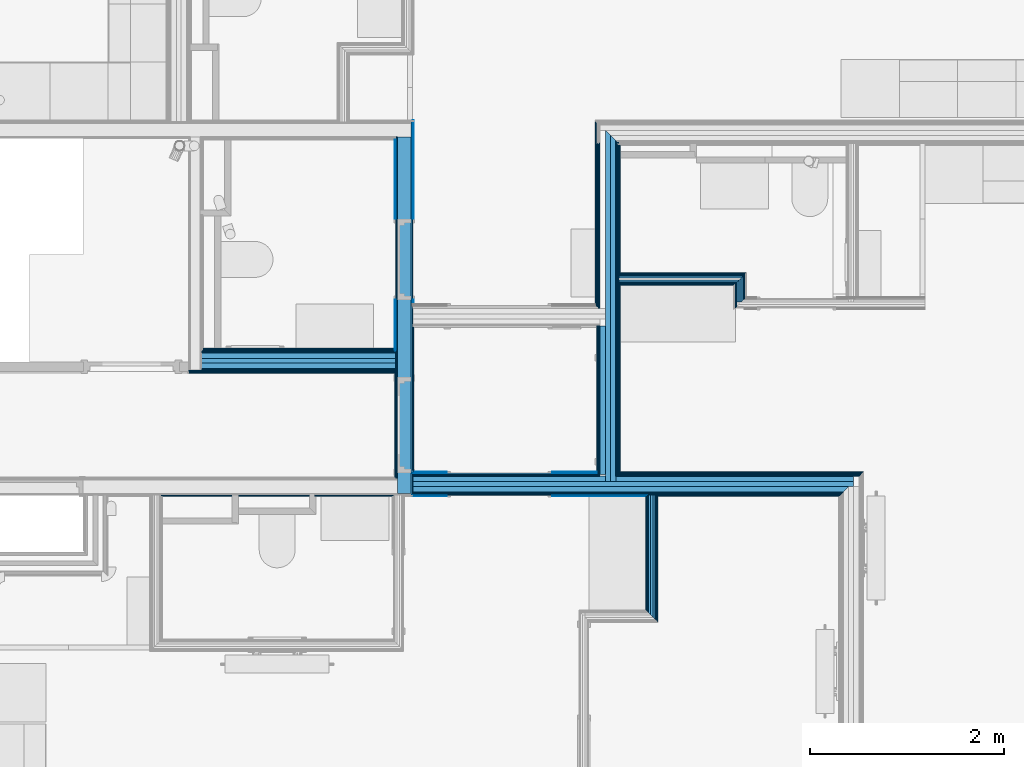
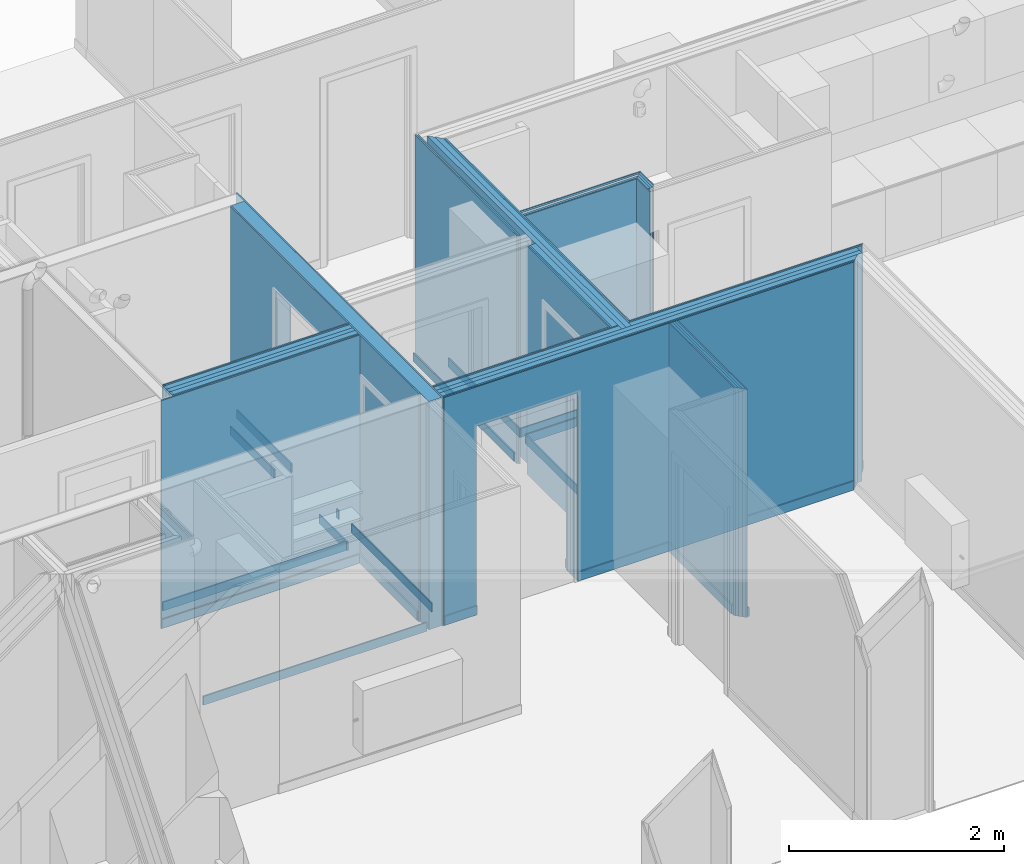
# One storey, part 20 of 85: 65 building element parts, 3 openings, 8 elements without a shape of their own.
"""IFC2X3 building model written with IfcOpenShell, lengths in metres."""

from ifc_helpers import new_model, entity, si_unit, converted_unit, derived_unit, money_unit, direction, frame, frame_2d, origin_with_axes, place, context, subcontext, project, spatial, polyline, rectangle, outline, extrude, material, type_object, element, aggregate, save


model = new_model("IFC2X3")

# Units and contexts
model_context = context("Model", 3, precision=1e-05, world=origin_with_axes(), true_north=direction((0.0, 1.0)))
body_context = subcontext(model_context, "Body", "Model", "MODEL_VIEW", scale=1.0)
ifc_project = project(units=[si_unit("LENGTHUNIT", "METRE"), si_unit("AREAUNIT", "SQUARE_METRE"), si_unit("VOLUMEUNIT", "CUBIC_METRE"), si_unit("ABSORBEDDOSEUNIT", "GRAY"), si_unit("AMOUNTOFSUBSTANCEUNIT", "MOLE"), si_unit("DOSEEQUIVALENTUNIT", "SIEVERT"), si_unit("ELECTRICCAPACITANCEUNIT", "FARAD"), si_unit("ELECTRICCHARGEUNIT", "COULOMB"), si_unit("ELECTRICCONDUCTANCEUNIT", "SIEMENS"), si_unit("ELECTRICCURRENTUNIT", "AMPERE"), si_unit("ELECTRICRESISTANCEUNIT", "OHM"), si_unit("ELECTRICVOLTAGEUNIT", "VOLT"), si_unit("ENERGYUNIT", "JOULE"), si_unit("FORCEUNIT", "NEWTON"), si_unit("FREQUENCYUNIT", "HERTZ"), si_unit("ILLUMINANCEUNIT", "LUX"), si_unit("INDUCTANCEUNIT", "HENRY"), si_unit("LUMINOUSFLUXUNIT", "LUMEN"), si_unit("LUMINOUSINTENSITYUNIT", "CANDELA"), si_unit("MAGNETICFLUXDENSITYUNIT", "TESLA"), si_unit("MAGNETICFLUXUNIT", "WEBER"), si_unit("MASSUNIT", "GRAM"), converted_unit("PLANEANGLEUNIT", "degree", entity("IfcReal", 0.0174532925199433), si_unit("PLANEANGLEUNIT", "RADIAN"), dimensions=[0, 0, 0, 0, 0, 0, 0]), si_unit("POWERUNIT", "WATT"), si_unit("PRESSUREUNIT", "PASCAL"), si_unit("RADIOACTIVITYUNIT", "BECQUEREL"), si_unit("SOLIDANGLEUNIT", "STERADIAN"), si_unit("THERMODYNAMICTEMPERATUREUNIT", "KELVIN"), si_unit("TIMEUNIT", "SECOND"), derived_unit("ACCELERATIONUNIT", [(si_unit("LENGTHUNIT", "METRE"), 1), (si_unit("TIMEUNIT", "SECOND"), -2)]), derived_unit("ANGULARVELOCITYUNIT", [(converted_unit("PLANEANGLEUNIT", "degree", entity("IfcReal", 0.0174532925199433), si_unit("PLANEANGLEUNIT", "RADIAN"), dimensions=[0, 0, 0, 0, 0, 0, 0]), 1), (si_unit("TIMEUNIT", "SECOND"), -1)]), derived_unit("CURVATUREUNIT", [(converted_unit("PLANEANGLEUNIT", "degree", entity("IfcReal", 0.0174532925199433), si_unit("PLANEANGLEUNIT", "RADIAN"), dimensions=[0, 0, 0, 0, 0, 0, 0]), 1), (si_unit("LENGTHUNIT", "METRE"), -1)]), derived_unit("DYNAMICVISCOSITYUNIT", [(si_unit("PRESSUREUNIT", "PASCAL"), 1), (si_unit("TIMEUNIT", "SECOND"), 1)]), derived_unit("HEATFLUXDENSITYUNIT", [(si_unit("POWERUNIT", "WATT"), 1), (si_unit("LENGTHUNIT", "METRE"), -2)]), derived_unit("HEATINGVALUEUNIT", [(si_unit("ENERGYUNIT", "JOULE"), 1), (si_unit("MASSUNIT", "GRAM"), -1)]), derived_unit("INTEGERCOUNTRATEUNIT", [(si_unit("TIMEUNIT", "SECOND"), -1)]), derived_unit("IONCONCENTRATIONUNIT", [(si_unit("MASSUNIT", "GRAM"), 1), (si_unit("VOLUMEUNIT", "CUBIC_METRE"), -1)]), derived_unit("ISOTHERMALMOISTURECAPACITYUNIT", [(si_unit("VOLUMEUNIT", "CUBIC_METRE"), 1), (si_unit("MASSUNIT", "GRAM"), -1)]), derived_unit("KINEMATICVISCOSITYUNIT", [(si_unit("AREAUNIT", "SQUARE_METRE"), 1), (si_unit("TIMEUNIT", "SECOND"), -1)]), derived_unit("LINEARFORCEUNIT", [(si_unit("FORCEUNIT", "NEWTON"), 1), (si_unit("LENGTHUNIT", "METRE"), -1)]), derived_unit("LINEARMOMENTUNIT", [(si_unit("FORCEUNIT", "NEWTON"), 1), (si_unit("LENGTHUNIT", "METRE"), -1)]), derived_unit("LINEARSTIFFNESSUNIT", [(si_unit("FORCEUNIT", "NEWTON"), 1), (si_unit("LENGTHUNIT", "METRE"), -1)]), derived_unit("LINEARVELOCITYUNIT", [(si_unit("LENGTHUNIT", "METRE"), 1), (si_unit("TIMEUNIT", "SECOND"), -1)]), derived_unit("LUMINOUSINTENSITYDISTRIBUTIONUNIT", [(si_unit("LUMINOUSINTENSITYUNIT", "CANDELA"), 1), (si_unit("LUMINOUSFLUXUNIT", "LUMEN"), -1)]), derived_unit("MASSDENSITYUNIT", [(si_unit("MASSUNIT", "GRAM"), 1), (si_unit("VOLUMEUNIT", "CUBIC_METRE"), -1)]), derived_unit("MASSFLOWRATEUNIT", [(si_unit("MASSUNIT", "GRAM"), 1), (si_unit("TIMEUNIT", "SECOND"), -1)]), derived_unit("MASSPERLENGTHUNIT", [(si_unit("MASSUNIT", "GRAM"), 1), (si_unit("LENGTHUNIT", "METRE"), -1)]), derived_unit("MODULUSOFELASTICITYUNIT", [(si_unit("FORCEUNIT", "NEWTON"), 1), (si_unit("AREAUNIT", "SQUARE_METRE"), -1)]), derived_unit("MODULUSOFLINEARSUBGRADEREACTIONUNIT", [(si_unit("FORCEUNIT", "NEWTON"), 1), (si_unit("LENGTHUNIT", "METRE"), -2)]), derived_unit("MODULUSOFROTATIONALSUBGRADEREACTIONUNIT", [(si_unit("FORCEUNIT", "NEWTON"), 1), (si_unit("LENGTHUNIT", "METRE"), 1)]), derived_unit("MODULUSOFSUBGRADEREACTIONUNIT", [(si_unit("FORCEUNIT", "NEWTON"), 1), (si_unit("VOLUMEUNIT", "CUBIC_METRE"), -1)]), derived_unit("MOISTUREDIFFUSIVITYUNIT", [(si_unit("VOLUMEUNIT", "CUBIC_METRE"), 1), (si_unit("TIMEUNIT", "SECOND"), -1)]), derived_unit("MOLECULARWEIGHTUNIT", [(si_unit("MASSUNIT", "GRAM"), 1), (si_unit("AMOUNTOFSUBSTANCEUNIT", "MOLE"), -1)]), derived_unit("PLANARFORCEUNIT", [(si_unit("FORCEUNIT", "NEWTON"), 1), (si_unit("LENGTHUNIT", "METRE"), -2)]), derived_unit("ROTATIONALFREQUENCYUNIT", [(si_unit("TIMEUNIT", "SECOND"), -1)]), derived_unit("ROTATIONALMASSUNIT", [(si_unit("MASSUNIT", "GRAM"), 1), (si_unit("LENGTHUNIT", "METRE"), 2)]), derived_unit("ROTATIONALSTIFFNESSUNIT", [(si_unit("FORCEUNIT", "NEWTON"), 1), (si_unit("LENGTHUNIT", "METRE"), 1), (converted_unit("PLANEANGLEUNIT", "degree", entity("IfcReal", 0.0174532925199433), si_unit("PLANEANGLEUNIT", "RADIAN"), dimensions=[0, 0, 0, 0, 0, 0, 0]), -1)]), derived_unit("SECTIONAREAINTEGRALUNIT", [(si_unit("LENGTHUNIT", "METRE"), 5)]), derived_unit("SECTIONMODULUSUNIT", [(si_unit("LENGTHUNIT", "METRE"), 3)]), derived_unit("SHEARMODULUSUNIT", [(si_unit("FORCEUNIT", "NEWTON"), 1), (si_unit("AREAUNIT", "SQUARE_METRE"), -1)]), derived_unit("SOUNDPOWERUNIT", [(si_unit("ENERGYUNIT", "JOULE"), 1), (si_unit("TIMEUNIT", "SECOND"), -1)]), derived_unit("SPECIFICHEATCAPACITYUNIT", [(si_unit("FORCEUNIT", "NEWTON"), 1), (si_unit("MASSUNIT", "GRAM"), -1), (si_unit("THERMODYNAMICTEMPERATUREUNIT", "KELVIN"), -1)]), derived_unit("TEMPERATUREGRADIENTUNIT", [(si_unit("THERMODYNAMICTEMPERATUREUNIT", "KELVIN"), 1), (si_unit("LENGTHUNIT", "METRE"), -1)]), derived_unit("THERMALADMITTANCEUNIT", [(si_unit("POWERUNIT", "WATT"), 1), (si_unit("AREAUNIT", "SQUARE_METRE"), -1), (si_unit("THERMODYNAMICTEMPERATUREUNIT", "KELVIN"), -1)]), derived_unit("THERMALCONDUCTANCEUNIT", [(si_unit("POWERUNIT", "WATT"), 1), (si_unit("LENGTHUNIT", "METRE"), -1), (si_unit("THERMODYNAMICTEMPERATUREUNIT", "KELVIN"), -1)]), derived_unit("THERMALEXPANSIONCOEFFICIENTUNIT", [(si_unit("THERMODYNAMICTEMPERATUREUNIT", "KELVIN"), -1)]), derived_unit("THERMALRESISTANCEUNIT", [(si_unit("AREAUNIT", "SQUARE_METRE"), 1), (si_unit("POWERUNIT", "WATT"), -1)]), derived_unit("THERMALTRANSMITTANCEUNIT", [(si_unit("POWERUNIT", "WATT"), 1), (si_unit("AREAUNIT", "SQUARE_METRE"), -1), (si_unit("THERMODYNAMICTEMPERATUREUNIT", "KELVIN"), -1)]), derived_unit("TORQUEUNIT", [(si_unit("FORCEUNIT", "NEWTON"), 1), (si_unit("LENGTHUNIT", "METRE"), 1)]), derived_unit("VAPORPERMEABILITYUNIT", [(si_unit("MASSUNIT", "GRAM"), 1), (si_unit("TIMEUNIT", "SECOND"), -1)]), derived_unit("VOLUMETRICFLOWRATEUNIT", [(si_unit("VOLUMEUNIT", "CUBIC_METRE"), 1), (si_unit("TIMEUNIT", "SECOND"), -1)]), derived_unit("WARPINGCONSTANTUNIT", [(si_unit("LENGTHUNIT", "METRE"), 6)]), derived_unit("WARPINGMOMENTUNIT", [(si_unit("FORCEUNIT", "NEWTON"), 1), (si_unit("LENGTHUNIT", "METRE"), 2)]), money_unit("GBP")], contexts=[model_context])

# Site, building, storey
site_placement = place(None, origin_with_axes())
site = spatial("IfcSite", under=ifc_project, at=site_placement, Name="Site", CompositionType="ELEMENT")
building_placement = place(site_placement, origin_with_axes())
building = spatial("IfcBuilding", under=site, at=building_placement, Name="Building01", CompositionType="ELEMENT")
storey_placement = place(building_placement, frame((0.0, 0.0, 12.13), z_axis=(0.0, 0.0, 1.0), x_axis=(1.0, 0.0, 0.0)))
storey = spatial("IfcBuildingStorey", under=building, at=storey_placement, Name="3F", CompositionType="ELEMENT", Elevation=12.13)

# Wall, openings, building element parts
wall_type_1 = type_object("IfcWallType", Name="SHE_A-Walls_Type01c_Partywall_225mm_twin_tall", PredefinedType="NOTDEFINED")
wall_1_placement = place(storey_placement, frame((18.0, 5.068, 0.0), z_axis=(0.0, 0.0, 1.0), x_axis=(1.0, 0.0, 0.0)))
wall_1 = element("IfcWall", 1, at=wall_1_placement, inside=storey, type_object=wall_type_1, Name="1C", ObjectType="SHE_A-Walls_Type01c_Partywall_225mm_twin_tall")
opening_1_placement = place(wall_1_placement, frame((0.353, 0.152, -0.03), z_axis=(0.0, 0.0, 1.0), x_axis=(1.0, 0.0, 0.0)))
element("IfcOpeningElement", 2, at=opening_1_placement, cuts=wall_1, Name="Opening", ObjectType="Opening", context=body_context, shape_type="SweptSolid", body=[
    extrude(rectangle(XDim=2.142, YDim=1.084, at=frame_2d((0.542, 1.071), x_axis=(0.0, -1.0))), frame((0.0, 0.0, 0.0), z_axis=(0.0, -1.0, 0.0), x_axis=(1.0, 0.0, 0.0)), (0.0, 0.0, 1.0), 0.255),
])
opening_2_placement = place(wall_1_placement, frame((0.35, 0.152, 0.0), z_axis=(0.0, 0.0, 1.0), x_axis=(1.0, 0.0, 0.0)))
element("IfcOpeningElement", 3, at=opening_2_placement, cuts=wall_1, Name="Opening", ObjectType="Opening", context=body_context, shape_type="SweptSolid", body=[
    extrude(rectangle(XDim=2.142, YDim=1.084, at=frame_2d((0.542, 1.071), x_axis=(0.0, -1.0))), frame((0.0, 0.0, 0.0), z_axis=(0.0, -1.0, 0.0), x_axis=(1.0, 0.0, 0.0)), (0.0, 0.0, 1.0), 0.255),
])
ifc_material_1 = material(Name="A_BSUK_Walls_Timber")
placement_1 = place(wall_1_placement, origin_with_axes())
building_element_part_1 = element("IfcBuildingElementPart", 4, at=placement_1, material=ifc_material_1, Name="1", context=body_context, shape_type="SweptSolid", body=[
    extrude(rectangle(XDim=2.415, YDim=0.015, at=frame_2d((1.2075, -0.0955), x_axis=(-1.0, 0.0))), frame((0.0, 0.0, 0.015), z_axis=(0.0, 0.0, 1.0), x_axis=(1.0, 0.0, 0.0)), (0.0, 0.0, 1.0), 0.1),
])
building_element_part_2 = element("IfcBuildingElementPart", 5, at=placement_1, material=ifc_material_1, Name="2", context=body_context, shape_type="SweptSolid", body=[
    extrude(outline(polyline([(4.4, -0.088), (2.51, -0.088), (2.51, -0.103), (4.385, -0.103), (4.4, -0.088)])), frame((0.0, 0.0, 0.015), z_axis=(0.0, 0.0, 1.0), x_axis=(1.0, 0.0, 0.0)), (0.0, 0.0, 1.0), 0.1),
])
ifc_material_2 = material(Name="A_BSUK_WallInternal_Finishes_Plasterboard")
building_element_part_3 = element("IfcBuildingElementPart", 6, at=placement_1, material=ifc_material_2, Name="3", context=body_context, shape_type="SweptSolid", body=[
    extrude(outline(polyline([(4.415, -0.073), (0.0, -0.073), (0.0, -0.088), (4.4, -0.088), (4.415, -0.073)])), origin_with_axes(), (0.0, 0.0, 1.0), 2.59),
])
building_element_part_4 = element("IfcBuildingElementPart", 7, at=placement_1, material=ifc_material_2, Name="4", context=body_context, shape_type="SweptSolid", body=[
    extrude(outline(polyline([(4.415, -0.073), (0.0, -0.073), (0.0, -0.088), (4.4, -0.088), (4.415, -0.073)])), origin_with_axes(), (0.0, 0.0, 1.0), 2.59),
])
building_element_part_5 = element("IfcBuildingElementPart", 8, at=placement_1, material=ifc_material_2, Name="5", context=body_context, shape_type="SweptSolid", body=[
    extrude(outline(polyline([(4.43, -0.058), (0.0, -0.058), (0.0, -0.073), (4.415, -0.073), (4.43, -0.058)])), origin_with_axes(), (0.0, 0.0, 1.0), 2.59),
])
ifc_material_3 = material(Name="Air Cavity")
building_element_part_6 = element("IfcBuildingElementPart", 9, at=placement_1, material=ifc_material_3, Name="6", context=body_context, shape_type="SweptSolid", body=[
    extrude(outline(polyline([(4.488, 0.0), (0.0, 0.0), (0.0, -0.058), (4.43, -0.058), (4.488, 0.0)])), origin_with_axes(), (0.0, 0.0, 1.0), 2.59),
])
ifc_material_4 = material(Name="A_BSUK_Insulation")
building_element_part_7 = element("IfcBuildingElementPart", 10, at=placement_1, material=ifc_material_4, Name="7", context=body_context, shape_type="SweptSolid", body=[
    extrude(rectangle(XDim=4.538, YDim=0.05, at=frame_2d((2.269, 0.025), x_axis=(-1.0, 0.0))), origin_with_axes(), (0.0, 0.0, 1.0), 2.59),
])
building_element_part_8 = element("IfcBuildingElementPart", 11, at=placement_1, material=ifc_material_3, Name="8", context=body_context, shape_type="SweptSolid", body=[
    extrude(rectangle(XDim=4.538, YDim=0.057, at=frame_2d((2.269, 0.0785), x_axis=(-1.0, 0.0))), origin_with_axes(), (0.0, 0.0, 1.0), 2.59),
])
building_element_part_9 = element("IfcBuildingElementPart", 12, at=placement_1, material=ifc_material_2, Name="9", context=body_context, shape_type="SweptSolid", body=[
    extrude(rectangle(XDim=1.927661, YDim=0.015, at=frame_2d((0.963831, 0.1145), x_axis=(-1.0, 0.0))), origin_with_axes(), (0.0, 0.0, 1.0), 2.59),
])
building_element_part_10 = element("IfcBuildingElementPart", 13, at=placement_1, material=ifc_material_2, Name="10", context=body_context, shape_type="SweptSolid", body=[
    extrude(outline(polyline([(4.61, 0.122), (2.107661, 0.122), (2.107661, 0.107), (4.595, 0.107), (4.61, 0.122)])), origin_with_axes(), (0.0, 0.0, 1.0), 2.59),
])
building_element_part_11 = element("IfcBuildingElementPart", 14, at=placement_1, material=ifc_material_2, Name="11", context=body_context, shape_type="SweptSolid", body=[
    extrude(rectangle(XDim=1.912661, YDim=0.015, at=frame_2d((0.956331, 0.1295), x_axis=(-1.0, 0.0))), origin_with_axes(), (0.0, 0.0, 1.0), 2.59),
])
building_element_part_12 = element("IfcBuildingElementPart", 15, at=placement_1, material=ifc_material_2, Name="12", context=body_context, shape_type="SweptSolid", body=[
    extrude(outline(polyline([(4.625, 0.137), (2.107661, 0.137), (2.107661, 0.122), (4.61, 0.122), (4.625, 0.137)])), origin_with_axes(), (0.0, 0.0, 1.0), 2.59),
])
building_element_part_13 = element("IfcBuildingElementPart", 16, at=placement_1, material=ifc_material_1, Name="13", context=body_context, shape_type="SweptSolid", body=[
    extrude(outline(polyline([(1.897661, 0.152), (0.015, 0.152), (0.0, 0.137), (1.897661, 0.137), (1.897661, 0.152)])), frame((0.0, 0.0, 0.015), z_axis=(0.0, 0.0, 1.0), x_axis=(1.0, 0.0, 0.0)), (0.0, 0.0, 1.0), 0.1),
])
building_element_part_14 = element("IfcBuildingElementPart", 17, at=placement_1, material=ifc_material_1, Name="14", context=body_context, shape_type="SweptSolid", body=[
    extrude(outline(polyline([(4.64, 0.152), (2.137661, 0.152), (2.137661, 0.137), (4.625, 0.137), (4.64, 0.152)])), frame((0.0, 0.0, 0.015), z_axis=(0.0, 0.0, 1.0), x_axis=(1.0, 0.0, 0.0)), (0.0, 0.0, 1.0), 0.1),
])
aggregate(wall_1, [building_element_part_1, building_element_part_2, building_element_part_3, building_element_part_4, building_element_part_5, building_element_part_6, building_element_part_7, building_element_part_8, building_element_part_9, building_element_part_10, building_element_part_11, building_element_part_12, building_element_part_13, building_element_part_14])

# Wall, building element parts
wall_2_placement = place(storey_placement, frame((17.83, 6.337, 0.0), z_axis=(0.0, 0.0, 1.0), x_axis=(-1.0, 0.0, 0.0)))
wall_2 = element("IfcWall", 18, at=wall_2_placement, inside=storey, type_object=wall_type_1, Name="1C", ObjectType="SHE_A-Walls_Type01c_Partywall_225mm_twin_tall")
placement_2 = place(wall_2_placement, origin_with_axes())
building_element_part_15 = element("IfcBuildingElementPart", 19, at=placement_2, material=ifc_material_1, Name="1", context=body_context, shape_type="SweptSolid", body=[
    extrude(rectangle(XDim=1.97, YDim=0.015, at=frame_2d((1.0, -0.1455), x_axis=(-1.0, 0.0))), frame((0.0, 0.0, 0.015), z_axis=(0.0, 0.0, 1.0), x_axis=(1.0, 0.0, 0.0)), (0.0, 0.0, 1.0), 0.1),
])
building_element_part_16 = element("IfcBuildingElementPart", 20, at=placement_2, material=ifc_material_2, Name="2", context=body_context, shape_type="SweptSolid", body=[
    extrude(outline(polyline([(2.0, -0.123), (-0.015, -0.123), (-0.015, -0.138), (1.985, -0.138), (2.0, -0.123)])), origin_with_axes(), (0.0, 0.0, 1.0), 2.59),
])
building_element_part_17 = element("IfcBuildingElementPart", 21, at=placement_2, material=ifc_material_2, Name="3", context=body_context, shape_type="SweptSolid", body=[
    extrude(rectangle(XDim=2.0, YDim=0.015, at=frame_2d((1.0, -0.1155), x_axis=(-1.0, 0.0))), origin_with_axes(), (0.0, 0.0, 1.0), 2.59),
])
building_element_part_18 = element("IfcBuildingElementPart", 22, at=placement_2, material=ifc_material_3, Name="4", context=body_context, shape_type="SweptSolid", body=[
    extrude(rectangle(XDim=2.0, YDim=0.058, at=frame_2d((1.0, -0.079), x_axis=(-1.0, 0.0))), origin_with_axes(), (0.0, 0.0, 1.0), 2.59),
])
building_element_part_19 = element("IfcBuildingElementPart", 23, at=placement_2, material=ifc_material_4, Name="5", context=body_context, shape_type="SweptSolid", body=[
    extrude(rectangle(XDim=2.0, YDim=0.05, at=frame_2d((1.0, -0.025), x_axis=(-1.0, 0.0))), origin_with_axes(), (0.0, 0.0, 1.0), 2.59),
])
building_element_part_20 = element("IfcBuildingElementPart", 24, at=placement_2, material=ifc_material_3, Name="6", context=body_context, shape_type="SweptSolid", body=[
    extrude(rectangle(XDim=2.0, YDim=0.057, at=frame_2d((1.0, 0.0285), x_axis=(-1.0, 0.0))), origin_with_axes(), (0.0, 0.0, 1.0), 2.59),
])
building_element_part_21 = element("IfcBuildingElementPart", 25, at=placement_2, material=ifc_material_2, Name="7", context=body_context, shape_type="SweptSolid", body=[
    extrude(rectangle(XDim=2.0, YDim=0.015, at=frame_2d((1.0, 0.0645), x_axis=(-1.0, 0.0))), origin_with_axes(), (0.0, 0.0, 1.0), 2.59),
])
building_element_part_22 = element("IfcBuildingElementPart", 26, at=placement_2, material=ifc_material_2, Name="8", context=body_context, shape_type="SweptSolid", body=[
    extrude(rectangle(XDim=2.13, YDim=0.015, at=frame_2d((1.065, 0.0795), x_axis=(-1.0, 0.0))), origin_with_axes(), (0.0, 0.0, 1.0), 2.59),
])
building_element_part_23 = element("IfcBuildingElementPart", 27, at=placement_2, material=ifc_material_1, Name="9", context=body_context, shape_type="SweptSolid", body=[
    extrude(rectangle(XDim=2.115, YDim=0.015, at=frame_2d((1.0725, 0.0945), x_axis=(-1.0, 0.0))), frame((0.0, 0.0, 0.015), z_axis=(0.0, 0.0, 1.0), x_axis=(1.0, 0.0, 0.0)), (0.0, 0.0, 1.0), 0.1),
])
aggregate(wall_2, [building_element_part_15, building_element_part_16, building_element_part_17, building_element_part_18, building_element_part_19, building_element_part_20, building_element_part_21, building_element_part_22, building_element_part_23])

# Wall, opening, building element parts
wall_type_2 = type_object("IfcWallType", Name="SHE_A-Walls_Type03a_BlockworkWall_170mm", PredefinedType="NOTDEFINED")
wall_3_placement = place(storey_placement, frame((17.845, 8.665, 0.0), z_axis=(0.0, 0.0, 1.0), x_axis=(0.0, -1.0, 0.0)))
wall_3 = element("IfcWall", 28, at=wall_3_placement, inside=storey, type_object=wall_type_2, Name="4B", ObjectType="SHE_A-Walls_Type03a_BlockworkWall_170mm")
opening_3_placement = place(wall_3_placement, frame((0.84412, 0.17, 0.0), z_axis=(0.0, 0.0, 1.0), x_axis=(1.0, 0.0, 0.0)))
element("IfcOpeningElement", 29, at=opening_3_placement, cuts=wall_3, Name="Opening", ObjectType="Opening", context=body_context, shape_type="SweptSolid", body=[
    extrude(rectangle(XDim=2.142, YDim=0.834, at=frame_2d((0.417, 1.071), x_axis=(0.0, -1.0))), frame((0.0, 0.0, 0.0), z_axis=(0.0, -1.0, 0.0), x_axis=(1.0, 0.0, 0.0)), (0.0, 0.0, 1.0), 0.2),
])
placement_3 = place(wall_3_placement, origin_with_axes())
building_element_part_24 = element("IfcBuildingElementPart", 30, at=placement_3, material=ifc_material_1, Name="1", context=body_context, shape_type="SweptSolid", body=[
    extrude(outline(polyline([(2.205, -0.015), (0.03, -0.015), (0.03, -0.03), (2.19, -0.03), (2.205, -0.015)])), frame((0.0, 0.0, 0.015), z_axis=(0.0, 0.0, 1.0), x_axis=(1.0, 0.0, 0.0)), (0.0, 0.0, 1.0), 0.1),
])
building_element_part_25 = element("IfcBuildingElementPart", 31, at=placement_3, material=ifc_material_1, Name="2", context=body_context, shape_type="SweptSolid", body=[
    extrude(rectangle(XDim=1.085, YDim=0.015, at=frame_2d((2.9575, -0.0225), x_axis=(-1.0, 0.0))), frame((0.0, 0.0, 0.015), z_axis=(0.0, 0.0, 1.0), x_axis=(1.0, 0.0, 0.0)), (0.0, 0.0, 1.0), 0.1),
])
building_element_part_26 = element("IfcBuildingElementPart", 32, at=placement_3, material=ifc_material_2, Name="3", context=body_context, shape_type="SweptSolid", body=[
    extrude(outline(polyline([(2.205, 0.0), (0.0, 0.0), (0.0, -0.015), (2.19, -0.015), (2.205, 0.0)])), origin_with_axes(), (0.0, 0.0, 1.0), 2.59),
])
building_element_part_27 = element("IfcBuildingElementPart", 33, at=placement_3, material=ifc_material_2, Name="4", context=body_context, shape_type="SweptSolid", body=[
    extrude(outline(polyline([(3.515, 0.0), (2.19, 0.0), (2.205, -0.015), (3.515, -0.015), (3.515, 0.0)])), origin_with_axes(), (0.0, 0.0, 1.0), 2.59),
])
ifc_material_5 = material(Name="A_BSUK_WallsInternal_Block")
building_element_part_28 = element("IfcBuildingElementPart", 34, at=placement_3, material=ifc_material_5, Name="5", context=body_context, shape_type="SweptSolid", body=[
    extrude(rectangle(XDim=3.67, YDim=0.14, at=frame_2d((1.835, 0.07), x_axis=(-1.0, 0.0))), origin_with_axes(), (0.0, 0.0, 1.0), 2.59),
])
ifc_material_6 = material(Name="A_BSUK_WallInternal_Finishes_Plaster")
building_element_part_29 = element("IfcBuildingElementPart", 35, at=placement_3, material=ifc_material_6, Name="6", context=body_context, shape_type="SweptSolid", body=[
    extrude(rectangle(XDim=3.84, YDim=0.015, at=frame_2d((1.765, 0.1475), x_axis=(-1.0, 0.0))), origin_with_axes(), (0.0, 0.0, 1.0), 2.59),
])
building_element_part_30 = element("IfcBuildingElementPart", 36, at=placement_3, material=ifc_material_1, Name="7", context=body_context, shape_type="SweptSolid", body=[
    extrude(rectangle(XDim=1.89, YDim=0.015, at=frame_2d((0.775, 0.1625), x_axis=(-1.0, 0.0))), frame((0.0, 0.0, 0.015), z_axis=(0.0, 0.0, 1.0), x_axis=(1.0, 0.0, 0.0)), (0.0, 0.0, 1.0), 0.1),
])
building_element_part_31 = element("IfcBuildingElementPart", 37, at=placement_3, material=ifc_material_1, Name="8", context=body_context, shape_type="SweptSolid", body=[
    extrude(outline(polyline([(3.445, 0.17), (1.975, 0.17), (1.975, 0.155), (3.46, 0.155), (3.445, 0.17)])), frame((0.0, 0.0, 0.015), z_axis=(0.0, 0.0, 1.0), x_axis=(1.0, 0.0, 0.0)), (0.0, 0.0, 1.0), 0.1),
])
building_element_part_32 = element("IfcBuildingElementPart", 38, at=placement_3, material=ifc_material_1, Name="9", context=body_context, shape_type="SweptSolid", body=[
    extrude(outline(polyline([(3.445, 0.17), (1.96, 0.17), (1.96, 0.155), (3.46, 0.155), (3.445, 0.17)])), frame((0.0, 0.0, 0.015), z_axis=(0.0, 0.0, 1.0), x_axis=(1.0, 0.0, 0.0)), (0.0, 0.0, 1.0), 0.1),
])
building_element_part_33 = element("IfcBuildingElementPart", 39, at=placement_3, material=ifc_material_1, Name="10", context=body_context, shape_type="SweptSolid", body=[
    extrude(outline(polyline([(3.445, 0.17), (1.96, 0.17), (1.96, 0.155), (3.46, 0.155), (3.445, 0.17)])), frame((0.0, 0.0, 0.015), z_axis=(0.0, 0.0, 1.0), x_axis=(1.0, 0.0, 0.0)), (0.0, 0.0, 1.0), 0.1),
])
aggregate(wall_3, [building_element_part_24, building_element_part_25, building_element_part_26, building_element_part_27, building_element_part_28, building_element_part_29, building_element_part_30, building_element_part_31, building_element_part_32, building_element_part_33])

# Wall, building element parts
wall_4_placement = place(storey_placement, frame((19.985661, 8.732, 0.0), z_axis=(0.0, 0.0, 1.0), x_axis=(0.0, -1.0, 0.0)))
wall_4 = element("IfcWall", 40, at=wall_4_placement, inside=storey, type_object=wall_type_1, Name="1C", ObjectType="SHE_A-Walls_Type01c_Partywall_225mm_twin_tall")
placement_4 = place(wall_4_placement, origin_with_axes())
building_element_part_34 = element("IfcBuildingElementPart", 41, at=placement_4, material=ifc_material_1, Name="1", context=body_context, shape_type="SweptSolid", body=[
    extrude(outline(polyline([(1.787, -0.088), (-0.073, -0.088), (-0.088, -0.103), (1.787, -0.103), (1.787, -0.088)])), frame((0.0, 0.0, 0.015), z_axis=(0.0, 0.0, 1.0), x_axis=(1.0, 0.0, 0.0)), (0.0, 0.0, 1.0), 0.1),
])
building_element_part_35 = element("IfcBuildingElementPart", 42, at=placement_4, material=ifc_material_1, Name="2", context=body_context, shape_type="SweptSolid", body=[
    extrude(outline(polyline([(1.802, -0.088), (-0.073, -0.088), (-0.088, -0.103), (1.802, -0.103), (1.802, -0.088)])), frame((0.0, 0.0, 0.015), z_axis=(0.0, 0.0, 1.0), x_axis=(1.0, 0.0, 0.0)), (0.0, 0.0, 1.0), 0.1),
])
building_element_part_36 = element("IfcBuildingElementPart", 43, at=placement_4, material=ifc_material_2, Name="3", context=body_context, shape_type="SweptSolid", body=[
    extrude(rectangle(XDim=1.89, YDim=0.015, at=frame_2d((0.872, -0.0805), x_axis=(-1.0, 0.0))), origin_with_axes(), (0.0, 0.0, 1.0), 2.59),
])
building_element_part_37 = element("IfcBuildingElementPart", 44, at=placement_4, material=ifc_material_2, Name="5", context=body_context, shape_type="SweptSolid", body=[
    extrude(rectangle(XDim=1.515, YDim=0.015, at=frame_2d((2.7695, -0.0805), x_axis=(-1.0, 0.0))), origin_with_axes(), (0.0, 0.0, 1.0), 2.59),
])
building_element_part_38 = element("IfcBuildingElementPart", 45, at=placement_4, material=ifc_material_2, Name="6", context=body_context, shape_type="SweptSolid", body=[
    extrude(rectangle(XDim=1.89, YDim=0.015, at=frame_2d((0.887, -0.0655), x_axis=(-1.0, 0.0))), origin_with_axes(), (0.0, 0.0, 1.0), 2.59),
])
building_element_part_39 = element("IfcBuildingElementPart", 46, at=placement_4, material=ifc_material_2, Name="8", context=body_context, shape_type="SweptSolid", body=[
    extrude(rectangle(XDim=1.53, YDim=0.015, at=frame_2d((2.777, -0.0655), x_axis=(-1.0, 0.0))), origin_with_axes(), (0.0, 0.0, 1.0), 2.59),
])
building_element_part_40 = element("IfcBuildingElementPart", 47, at=placement_4, material=ifc_material_3, Name="9", context=body_context, shape_type="SweptSolid", body=[
    extrude(rectangle(XDim=1.53, YDim=0.058, at=frame_2d((2.777, -0.029), x_axis=(-1.0, 0.0))), origin_with_axes(), (0.0, 0.0, 1.0), 2.59),
])
building_element_part_41 = element("IfcBuildingElementPart", 48, at=placement_4, material=ifc_material_4, Name="10", context=body_context, shape_type="SweptSolid", body=[
    extrude(outline(polyline([(3.614, 0.05), (0.05, 0.05), (0.0, 0.0), (3.614, 0.0), (3.614, 0.05)])), origin_with_axes(), (0.0, 0.0, 1.0), 2.59),
])
building_element_part_42 = element("IfcBuildingElementPart", 49, at=placement_4, material=ifc_material_3, Name="11", context=body_context, shape_type="SweptSolid", body=[
    extrude(outline(polyline([(3.614, 0.107), (0.107, 0.107), (0.05, 0.05), (3.614, 0.05), (3.614, 0.107)])), origin_with_axes(), (0.0, 0.0, 1.0), 2.59),
])
building_element_part_43 = element("IfcBuildingElementPart", 50, at=placement_4, material=ifc_material_2, Name="12", context=body_context, shape_type="SweptSolid", body=[
    extrude(outline(polyline([(3.557, 0.122), (0.122, 0.122), (0.107, 0.107), (3.557, 0.107), (3.557, 0.122)])), origin_with_axes(), (0.0, 0.0, 1.0), 2.59),
])
building_element_part_44 = element("IfcBuildingElementPart", 51, at=placement_4, material=ifc_material_2, Name="13", context=body_context, shape_type="SweptSolid", body=[
    extrude(rectangle(XDim=3.405, YDim=0.015, at=frame_2d((1.8245, 0.1295), x_axis=(-1.0, 0.0))), origin_with_axes(), (0.0, 0.0, 1.0), 2.59),
])
building_element_part_45 = element("IfcBuildingElementPart", 52, at=placement_4, material=ifc_material_1, Name="14", context=body_context, shape_type="SweptSolid", body=[
    extrude(rectangle(XDim=1.33, YDim=0.015, at=frame_2d((0.817, 0.1445), x_axis=(-1.0, 0.0))), frame((0.0, 0.0, 0.015), z_axis=(0.0, 0.0, 1.0), x_axis=(1.0, 0.0, 0.0)), (0.0, 0.0, 1.0), 0.1),
])
building_element_part_46 = element("IfcBuildingElementPart", 53, at=placement_4, material=ifc_material_1, Name="15", context=body_context, shape_type="SweptSolid", body=[
    extrude(rectangle(XDim=1.935, YDim=0.015, at=frame_2d((2.5595, 0.1445), x_axis=(-1.0, 0.0))), frame((0.0, 0.0, 0.015), z_axis=(0.0, 0.0, 1.0), x_axis=(1.0, 0.0, 0.0)), (0.0, 0.0, 1.0), 0.1),
])
aggregate(wall_4, [building_element_part_34, building_element_part_35, building_element_part_36, building_element_part_37, building_element_part_38, building_element_part_39, building_element_part_40, building_element_part_41, building_element_part_42, building_element_part_43, building_element_part_44, building_element_part_45, building_element_part_46])

wall_type_3 = type_object("IfcWallType", Name="SHE_A-Walls_Type05a_Partition_95mm_tall", PredefinedType="NOTDEFINED")
wall_5_placement = place(storey_placement, frame((21.382661, 6.965, 0.0), z_axis=(0.0, 0.0, 1.0), x_axis=(0.0, 1.0, 0.0)))
wall_5 = element("IfcWall", 54, at=wall_5_placement, inside=storey, type_object=wall_type_3, Name="5A", ObjectType="SHE_A-Walls_Type05a_Partition_95mm_tall")
placement_5 = place(wall_5_placement, origin_with_axes())
building_element_part_47 = element("IfcBuildingElementPart", 55, at=placement_5, material=ifc_material_2, Name="2", context=body_context, shape_type="SweptSolid", body=[
    extrude(outline(polyline([(0.273, -0.023), (0.023, -0.023), (0.035, -0.035), (0.285, -0.035), (0.273, -0.023)])), origin_with_axes(), (0.0, 0.0, 1.0), 2.59),
])
building_element_part_48 = element("IfcBuildingElementPart", 56, at=placement_5, material=ifc_material_3, Name="3", context=body_context, shape_type="SweptSolid", body=[
    extrude(outline(polyline([(0.25, 0.0), (0.0, 0.0), (0.023, -0.023), (0.273, -0.023), (0.25, 0.0)])), origin_with_axes(), (0.0, 0.0, 1.0), 2.59),
])
building_element_part_49 = element("IfcBuildingElementPart", 57, at=placement_5, material=ifc_material_4, Name="4", context=body_context, shape_type="SweptSolid", body=[
    extrude(outline(polyline([(0.225, 0.025), (0.0, 0.025), (0.0, 0.0), (0.25, 0.0), (0.225, 0.025)])), origin_with_axes(), (0.0, 0.0, 1.0), 2.59),
])
building_element_part_50 = element("IfcBuildingElementPart", 58, at=placement_5, material=ifc_material_3, Name="5", context=body_context, shape_type="SweptSolid", body=[
    extrude(outline(polyline([(0.202, 0.048), (0.0, 0.048), (0.0, 0.025), (0.225, 0.025), (0.202, 0.048)])), origin_with_axes(), (0.0, 0.0, 1.0), 2.59),
])
building_element_part_51 = element("IfcBuildingElementPart", 59, at=placement_5, material=ifc_material_2, Name="6", context=body_context, shape_type="SweptSolid", body=[
    extrude(outline(polyline([(0.19, 0.06), (-0.06, 0.06), (-0.048, 0.048), (0.202, 0.048), (0.19, 0.06)])), origin_with_axes(), (0.0, 0.0, 1.0), 2.59),
])
aggregate(wall_5, [building_element_part_47, building_element_part_48, building_element_part_49, building_element_part_50, building_element_part_51])

wall_6_placement = place(storey_placement, frame((21.382661, 7.215, 0.0), z_axis=(0.0, 0.0, 1.0), x_axis=(-1.0, 0.0, 0.0)))
wall_6 = element("IfcWall", 60, at=wall_6_placement, inside=storey, type_object=wall_type_3, Name="5A", ObjectType="SHE_A-Walls_Type05a_Partition_95mm_tall")
placement_6 = place(wall_6_placement, origin_with_axes())
building_element_part_52 = element("IfcBuildingElementPart", 61, at=placement_6, material=ifc_material_1, Name="1", context=body_context, shape_type="SweptSolid", body=[
    extrude(outline(polyline([(1.245, -0.035), (-0.035, -0.035), (-0.05, -0.05), (1.245, -0.05), (1.245, -0.035)])), frame((0.0, 0.0, 0.015), z_axis=(0.0, 0.0, 1.0), x_axis=(1.0, 0.0, 0.0)), (0.0, 0.0, 1.0), 0.1),
])
building_element_part_53 = element("IfcBuildingElementPart", 62, at=placement_6, material=ifc_material_2, Name="2", context=body_context, shape_type="SweptSolid", body=[
    extrude(outline(polyline([(1.26, -0.023), (-0.023, -0.023), (-0.035, -0.035), (1.26, -0.035), (1.26, -0.023)])), origin_with_axes(), (0.0, 0.0, 1.0), 2.59),
])
building_element_part_54 = element("IfcBuildingElementPart", 63, at=placement_6, material=ifc_material_3, Name="3", context=body_context, shape_type="SweptSolid", body=[
    extrude(outline(polyline([(1.26, 0.0), (0.0, 0.0), (-0.023, -0.023), (1.26, -0.023), (1.26, 0.0)])), origin_with_axes(), (0.0, 0.0, 1.0), 2.59),
])
building_element_part_55 = element("IfcBuildingElementPart", 64, at=placement_6, material=ifc_material_3, Name="5", context=body_context, shape_type="SweptSolid", body=[
    extrude(outline(polyline([(1.26, 0.048), (0.048, 0.048), (0.025, 0.025), (1.26, 0.025), (1.26, 0.048)])), origin_with_axes(), (0.0, 0.0, 1.0), 2.59),
])
building_element_part_56 = element("IfcBuildingElementPart", 65, at=placement_6, material=ifc_material_2, Name="6", context=body_context, shape_type="SweptSolid", body=[
    extrude(outline(polyline([(1.26, 0.06), (0.06, 0.06), (0.048, 0.048), (1.26, 0.048), (1.26, 0.06)])), origin_with_axes(), (0.0, 0.0, 1.0), 2.59),
])
building_element_part_57 = element("IfcBuildingElementPart", 66, at=placement_6, material=ifc_material_1, Name="7", context=body_context, shape_type="SweptSolid", body=[
    extrude(outline(polyline([(1.26, 0.075), (0.075, 0.075), (0.06, 0.06), (1.26, 0.06), (1.26, 0.075)])), frame((0.0, 0.0, 0.015), z_axis=(0.0, 0.0, 1.0), x_axis=(1.0, 0.0, 0.0)), (0.0, 0.0, 1.0), 0.1),
])
aggregate(wall_6, [building_element_part_52, building_element_part_53, building_element_part_54, building_element_part_55, building_element_part_56, building_element_part_57])

# Wall, building element part
wall_7_placement = place(storey_placement, frame((9.215, 4.995, 0.0), z_axis=(0.0, 0.0, 1.0), x_axis=(1.0, 0.0, 0.0)))
wall_7 = element("IfcWall", 67, at=wall_7_placement, inside=storey, type_object=wall_type_2, Name="4B", ObjectType="SHE_A-Walls_Type03a_BlockworkWall_170mm")
building_element_part_58_placement = place(wall_7_placement, origin_with_axes())
building_element_part_58 = element("IfcBuildingElementPart", 68, at=building_element_part_58_placement, material=ifc_material_1, Name="5", context=body_context, shape_type="SweptSolid", body=[
    extrude(rectangle(XDim=2.4, YDim=0.015, at=frame_2d((7.3925, -0.0225), x_axis=(-1.0, 0.0))), frame((0.0, 0.0, 0.015), z_axis=(0.0, 0.0, 1.0), x_axis=(1.0, 0.0, 0.0)), (0.0, 0.0, 1.0), 0.1),
])
aggregate(wall_7, [building_element_part_58])

# Wall, building element parts
wall_8_placement = place(storey_placement, frame((20.475, 3.72, 0.0), z_axis=(0.0, 0.0, 1.0), x_axis=(0.0, 1.0, 0.0)))
wall_8 = element("IfcWall", 69, at=wall_8_placement, inside=storey, type_object=wall_type_3, Name="5A", ObjectType="SHE_A-Walls_Type05a_Partition_95mm_tall")
placement_7 = place(wall_8_placement, origin_with_axes())
building_element_part_59 = element("IfcBuildingElementPart", 70, at=placement_7, material=ifc_material_1, Name="1", context=body_context, shape_type="SweptSolid", body=[
    extrude(outline(polyline([(1.245, -0.035), (-0.035, -0.035), (-0.05, -0.05), (1.245, -0.05), (1.245, -0.035)])), frame((0.0, 0.0, 0.015), z_axis=(0.0, 0.0, 1.0), x_axis=(1.0, 0.0, 0.0)), (0.0, 0.0, 1.0), 0.1),
])
building_element_part_60 = element("IfcBuildingElementPart", 71, at=placement_7, material=ifc_material_2, Name="2", context=body_context, shape_type="SweptSolid", body=[
    extrude(outline(polyline([(1.26, -0.023), (-0.023, -0.023), (-0.035, -0.035), (1.26, -0.035), (1.26, -0.023)])), origin_with_axes(), (0.0, 0.0, 1.0), 2.59),
])
building_element_part_61 = element("IfcBuildingElementPart", 72, at=placement_7, material=ifc_material_3, Name="3", context=body_context, shape_type="SweptSolid", body=[
    extrude(outline(polyline([(1.26, 0.0), (0.0, 0.0), (-0.023, -0.023), (1.26, -0.023), (1.26, 0.0)])), origin_with_axes(), (0.0, 0.0, 1.0), 2.59),
])
building_element_part_62 = element("IfcBuildingElementPart", 73, at=placement_7, material=ifc_material_4, Name="4", context=body_context, shape_type="SweptSolid", body=[
    extrude(outline(polyline([(1.26, 0.025), (0.025, 0.025), (0.0, 0.0), (1.26, 0.0), (1.26, 0.025)])), origin_with_axes(), (0.0, 0.0, 1.0), 2.59),
])
building_element_part_63 = element("IfcBuildingElementPart", 74, at=placement_7, material=ifc_material_3, Name="5", context=body_context, shape_type="SweptSolid", body=[
    extrude(outline(polyline([(1.26, 0.048), (0.048, 0.048), (0.025, 0.025), (1.26, 0.025), (1.26, 0.048)])), origin_with_axes(), (0.0, 0.0, 1.0), 2.59),
])
building_element_part_64 = element("IfcBuildingElementPart", 75, at=placement_7, material=ifc_material_2, Name="6", context=body_context, shape_type="SweptSolid", body=[
    extrude(outline(polyline([(1.26, 0.06), (0.06, 0.06), (0.048, 0.048), (1.26, 0.048), (1.26, 0.06)])), origin_with_axes(), (0.0, 0.0, 1.0), 2.59),
])
building_element_part_65 = element("IfcBuildingElementPart", 76, at=placement_7, material=ifc_material_1, Name="7", context=body_context, shape_type="SweptSolid", body=[
    extrude(outline(polyline([(1.245, 0.075), (0.075, 0.075), (0.06, 0.06), (1.245, 0.06), (1.245, 0.075)])), frame((0.0, 0.0, 0.015), z_axis=(0.0, 0.0, 1.0), x_axis=(1.0, 0.0, 0.0)), (0.0, 0.0, 1.0), 0.1),
])
aggregate(wall_8, [building_element_part_59, building_element_part_60, building_element_part_61, building_element_part_62, building_element_part_63, building_element_part_64, building_element_part_65])

save(model, "model.ifc")
